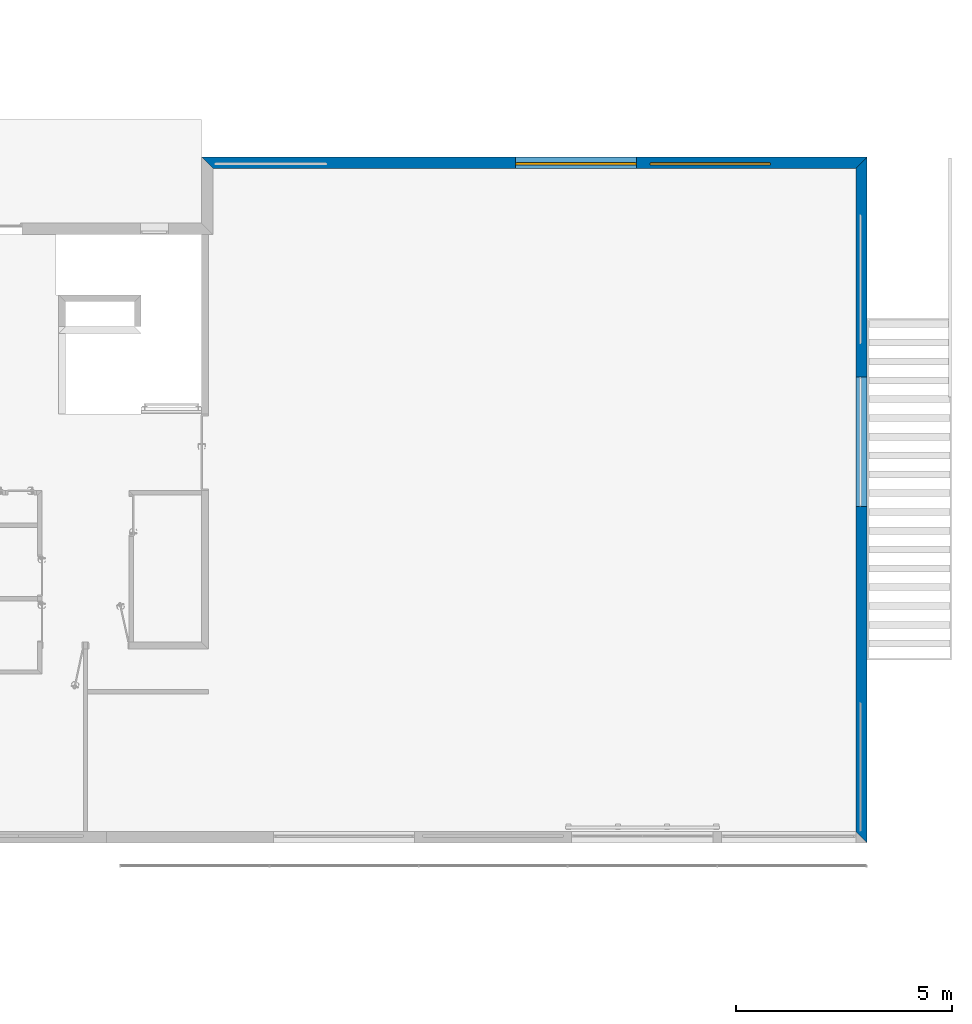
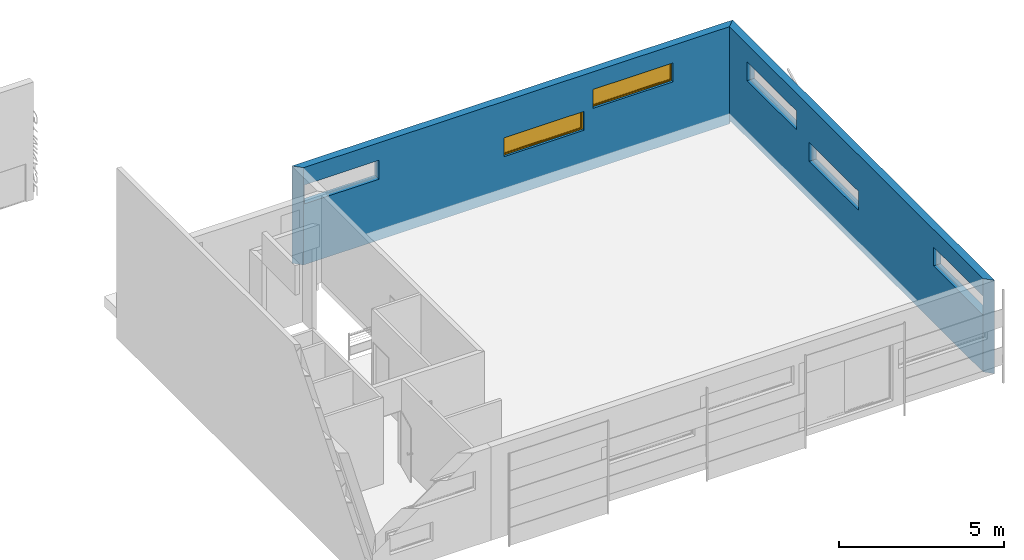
# One storey, part 6 of 14: 2 walls, 2 windows, 6 openings.
"""IFC2X3 building model written with IfcOpenShell, lengths in metres."""

from ifc_helpers import new_model, entity, si_unit, converted_unit, money_unit, direction, frame, origin_with_axes, place, context, subcontext, project, spatial, polyline, outline, extrude, open_shell, faceted_brep, surface_model, source, transform, mapped, material, layer, layer_set, layer_usage, type_object, element, fill, save


model = new_model("IFC2X3")

# Units and contexts
model_context = context("Model", 3, precision=1e-05, world=origin_with_axes(), true_north=direction((0.0, 1.0)))
body_context = subcontext(model_context, "Body", "Model", "MODEL_VIEW")
ifc_project = project(units=[si_unit("LENGTHUNIT", "METRE"), si_unit("AREAUNIT", "SQUARE_METRE"), si_unit("VOLUMEUNIT", "CUBIC_METRE"), converted_unit("PLANEANGLEUNIT", "DEGREE", entity("IfcPlaneAngleMeasure", 0.0174532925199), si_unit("PLANEANGLEUNIT", "RADIAN"), dimensions=[0, 0, 0, 0, 0, 0, 0]), si_unit("SOLIDANGLEUNIT", "STERADIAN"), money_unit("EUR"), converted_unit("TIMEUNIT", "Year", entity("IfcTimeMeasure", 31556926.0), si_unit("TIMEUNIT", "SECOND"), dimensions=[0, 0, 0, 0, 0, 0, 0]), si_unit("MASSUNIT", "GRAM"), si_unit("THERMODYNAMICTEMPERATUREUNIT", "DEGREE_CELSIUS"), si_unit("LUMINOUSINTENSITYUNIT", "LUMEN")], contexts=[model_context])

# Site, building, storey
site_placement = place(None, origin_with_axes())
site = spatial("IfcSite", under=ifc_project, at=site_placement, Name="Site", CompositionType="ELEMENT")
building_placement = place(site_placement, origin_with_axes())
building = spatial("IfcBuilding", under=site, at=building_placement, Name="Bâtiment", CompositionType="ELEMENT")
storey_placement = place(building_placement, frame((0.0, 0.0, 3.0), z_axis=(0.0, 0.0, 1.0), x_axis=(1.0, 0.0, 0.0)))
storey = spatial("IfcBuildingStorey", under=building, at=storey_placement, Name="NIVEAU HAUT ENTRÉE", CompositionType="ELEMENT", Elevation=3.0)

# Wall, openings, windows
ifc_material_1 = material(Name="Hachure solide* 2593434267")
ifc_layer_1 = layer(ifc_material_1, 0.16, ventilated="UNKNOWN")
ifc_material_2 = material(Name="Empty Fill 290923149")
ifc_layer_2 = layer(ifc_material_2, 0.08, ventilated="UNKNOWN")
ifc_material_3 = material(Name="Hachure solide* 3992800808")
ifc_layer_3 = layer(ifc_material_3, 0.02, ventilated="UNKNOWN")
ifc_layer_set_1 = layer_set([ifc_layer_1, ifc_layer_2, ifc_layer_3], Name="•GYMN 16+10 (1)")
ifc_layer_usage_1 = layer_usage(ifc_layer_set_1, "AXIS2", "POSITIVE", 0.0)
wall_type = type_object("IfcWallType", Name="•GYMN 16+10 260", PredefinedType="NOTDEFINED")
wall_1_placement = place(storey_placement, frame((67.258457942, 21.758815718, -0.4), z_axis=(0.0, 0.0, 1.0), x_axis=(-1.0, 0.0, 0.0)))
wall_1 = element("IfcWallStandardCase", 1, at=wall_1_placement, inside=storey, type_object=wall_type, material=ifc_layer_usage_1, Name="Mur-002", context=body_context, shape_type="SweptSolid", body=[
    extrude(outline(polyline([(0.0, 0.0), (15.42, 0.0), (15.16, 0.26), (0.26, 0.26), (0.0, 0.0)])), origin_with_axes(), (0.0, 0.0, 1.0), 3.6),
])
opening_1_placement = place(wall_1_placement, frame((13.82, 0.0, 2.25), z_axis=(0.0, 0.0, 1.0), x_axis=(1.0, 0.0, 0.0)))
element("IfcOpeningElement", 2, at=opening_1_placement, cuts=wall_1, Name="Fen-027", context=body_context, shape_type="SweptSolid", body=[
    extrude(outline(polyline([(1.3, 0.7), (-1.3, 0.7), (-1.3, 0.0), (1.3, 0.0), (1.3, 0.7)])), frame((0.0, 0.18, 0.0), z_axis=(0.0, -1.0, 0.0), x_axis=(1.0, 0.0, 0.0)), (0.0, 0.0, 1.0), 0.44),
    extrude(outline(polyline([(1.3, 0.0), (-1.3, 0.0), (-1.3, -0.7), (1.3, -0.7), (1.3, 0.0)])), frame((0.0, 0.18, 0.0), z_axis=(0.0, 1.0, 0.0), x_axis=(1.0, 0.0, 0.0)), (0.0, 0.0, 1.0), 0.34),
])
opening_2_placement = place(wall_1_placement, frame((6.74191669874, 0.0, 1.55), z_axis=(0.0, 0.0, 1.0), x_axis=(1.0, 0.0, 0.0)))
opening_2 = element("IfcOpeningElement", 3, at=opening_2_placement, cuts=wall_1, Name="Fen-027", context=body_context, shape_type="SweptSolid", body=[
    extrude(outline(polyline([(1.4, 0.7), (-1.4, 0.7), (-1.4, 0.0), (1.4, 0.0), (1.4, 0.7)])), frame((0.0, 0.18, 0.0), z_axis=(0.0, -1.0, 0.0), x_axis=(1.0, 0.0, 0.0)), (0.0, 0.0, 1.0), 0.44),
    extrude(outline(polyline([(1.4, 0.0), (-1.4, 0.0), (-1.4, -0.7), (1.4, -0.7), (1.4, 0.0)])), frame((0.0, 0.18, 0.0), z_axis=(0.0, 1.0, 0.0), x_axis=(1.0, 0.0, 0.0)), (0.0, 0.0, 1.0), 0.34),
])
opening_3_placement = place(wall_1_placement, frame((3.63565172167, 0.0, 2.25), z_axis=(0.0, 0.0, 1.0), x_axis=(1.0, 0.0, 0.0)))
opening_3 = element("IfcOpeningElement", 4, at=opening_3_placement, cuts=wall_1, Name="Fen-027", context=body_context, shape_type="SweptSolid", body=[
    extrude(outline(polyline([(1.4, 0.7), (-1.4, 0.7), (-1.4, 0.0), (1.4, 0.0), (1.4, 0.7)])), frame((0.0, 0.18, 0.0), z_axis=(0.0, -1.0, 0.0), x_axis=(1.0, 0.0, 0.0)), (0.0, 0.0, 1.0), 0.44),
    extrude(outline(polyline([(1.4, 0.0), (-1.4, 0.0), (-1.4, -0.7), (1.4, -0.7), (1.4, 0.0)])), frame((0.0, 0.18, 0.0), z_axis=(0.0, 1.0, 0.0), x_axis=(1.0, 0.0, 0.0)), (0.0, 0.0, 1.0), 0.34),
])
ifc_material_4 = material(Name="Sans Trame")
window_style = type_object("IfcWindowStyle", Name="Fen bascule 1 10", ConstructionType="NOTDEFINED", OperationType="SINGLE_PANEL", ParameterTakesPrecedence=False, Sizeable=False)
shared_shape = source(origin_with_axes(), body_context, "Body", "SurfaceModel", [
    faceted_brep([(1.38, -0.12, 0.66), (1.4, -0.12, 0.66), (1.4, -0.08, 0.66), (1.36, -0.08, 0.66), (1.36, -0.1, 0.66), (1.38, -0.1, 0.66), (1.38, -0.12, 0.04), (1.4, -0.12, 0.04), (1.4, -0.08, 0.04), (1.36, -0.08, 0.04), (1.36, -0.1, 0.04), (1.38, -0.1, 0.04)], [[[0, 1, 2, 3, 4, 5]], [[6, 7, 1, 0]], [[1, 7, 8, 2]], [[2, 8, 9, 3]], [[4, 3, 9, 10]], [[10, 11, 5, 4]], [[5, 11, 6, 0]], [[11, 10, 9, 8, 7, 6]]]),
    faceted_brep([(-1.36, -0.1, 0.66), (-1.36, -0.08, 0.66), (-1.4, -0.08, 0.66), (-1.4, -0.12, 0.66), (-1.38, -0.12, 0.66), (-1.38, -0.1, 0.66), (-1.36, -0.1, 0.04), (-1.36, -0.08, 0.04), (-1.4, -0.08, 0.04), (-1.4, -0.12, 0.04), (-1.38, -0.12, 0.04), (-1.38, -0.1, 0.04)], [[[0, 1, 2, 3, 4, 5]], [[6, 7, 1, 0]], [[8, 2, 1, 7]], [[9, 3, 2, 8]], [[4, 3, 9, 10]], [[10, 11, 5, 4]], [[5, 11, 6, 0]], [[11, 10, 9, 8, 7, 6]]]),
    faceted_brep([(1.38, -0.12, 0.66), (1.4, -0.12, 0.66), (1.4, -0.12, 0.7), (-1.4, -0.12, 0.7), (-1.4, -0.12, 0.66), (-1.38, -0.12, 0.66), (-1.38, -0.12, 0.68), (1.38, -0.12, 0.68), (1.38, -0.1, 0.66), (1.36, -0.1, 0.66), (1.36, -0.08, 0.66), (1.4, -0.08, 0.66), (1.4, -0.08, 0.7), (-1.4, -0.08, 0.7), (-1.4, -0.08, 0.66), (-1.38, -0.1, 0.66), (-1.36, -0.08, 0.66), (-1.36, -0.1, 0.66), (-1.38, -0.1, 0.68), (1.38, -0.1, 0.68)], [[[0, 1, 2, 3, 4, 5, 6, 7]], [[8, 9, 10, 11, 1, 0]], [[2, 1, 11, 12]], [[3, 2, 12, 13]], [[4, 3, 13, 14]], [[15, 5, 4, 14, 16, 17]], [[5, 15, 18, 6]], [[6, 18, 19, 7]], [[7, 19, 8, 0]], [[17, 9, 8, 19, 18, 15]], [[17, 16, 10, 9]], [[14, 13, 12, 11, 10, 16]]]),
    faceted_brep([(-1.36, -0.1, 0.04), (-1.36, -0.08, 0.04), (-1.4, -0.08, 0.04), (-1.4, -0.12, 0.04), (-1.38, -0.12, 0.04), (-1.38, -0.1, 0.04), (1.36, -0.1, 0.04), (1.36, -0.08, 0.04), (1.4, -0.08, 0.04), (1.4, -0.08, 0.0), (-1.4, -0.08, 0.0), (-1.4, -0.12, 0.0), (1.38, -0.12, 0.02), (-1.38, -0.12, 0.02), (1.4, -0.12, 0.0), (1.4, -0.12, 0.04), (1.38, -0.12, 0.04), (-1.38, -0.1, 0.02), (1.38, -0.1, 0.02), (1.38, -0.1, 0.04)], [[[0, 1, 2, 3, 4, 5]], [[6, 7, 1, 0]], [[8, 9, 10, 2, 1, 7]], [[11, 3, 2, 10]], [[12, 13, 4, 3, 11, 14, 15, 16]], [[13, 17, 5, 4]], [[5, 17, 18, 19, 6, 0]], [[19, 16, 15, 8, 7, 6]], [[15, 14, 9, 8]], [[14, 11, 10, 9]], [[12, 18, 17, 13]], [[19, 18, 12, 16]]]),
    faceted_brep([(-1.34, -0.1, 0.06), (-1.34, -0.1, 0.64), (-1.34, -0.14, 0.64), (-1.34, -0.14, 0.06), (-1.38, -0.1, 0.06), (-1.38, -0.1, 0.64), (-1.38, -0.14, 0.64), (-1.38, -0.14, 0.06)], [[[0, 1, 2, 3]], [[0, 4, 5, 1]], [[1, 5, 6, 2]], [[3, 2, 6, 7]], [[4, 0, 3, 7]], [[5, 4, 7, 6]]]),
    faceted_brep([(1.38, -0.1, 0.06), (1.38, -0.1, 0.64), (1.38, -0.14, 0.64), (1.38, -0.14, 0.06), (1.34, -0.1, 0.06), (1.34, -0.1, 0.64), (1.34, -0.14, 0.64), (1.34, -0.14, 0.06)], [[[0, 1, 2, 3]], [[0, 4, 5, 1]], [[1, 5, 6, 2]], [[3, 2, 6, 7]], [[4, 0, 3, 7]], [[5, 4, 7, 6]]]),
    faceted_brep([(1.38, -0.1, 0.02), (1.38, -0.1, 0.06), (1.38, -0.14, 0.06), (1.38, -0.14, 0.02), (-1.38, -0.1, 0.02), (-1.38, -0.1, 0.06), (-1.34, -0.1, 0.06), (1.34, -0.1, 0.06), (1.34, -0.14, 0.06), (-1.34, -0.14, 0.06), (-1.38, -0.14, 0.06), (-1.38, -0.14, 0.02)], [[[0, 1, 2, 3]], [[0, 4, 5, 6, 7, 1]], [[1, 7, 8, 2]], [[3, 2, 8, 9, 10, 11]], [[4, 0, 3, 11]], [[5, 4, 11, 10]], [[6, 5, 10, 9]], [[7, 6, 9, 8]]]),
    faceted_brep([(-1.38, -0.1, 0.68), (-1.38, -0.1, 0.64), (-1.38, -0.14, 0.64), (-1.38, -0.14, 0.68), (1.38, -0.1, 0.68), (1.38, -0.1, 0.64), (1.34, -0.1, 0.64), (-1.34, -0.1, 0.64), (-1.34, -0.14, 0.64), (1.34, -0.14, 0.64), (1.38, -0.14, 0.64), (1.38, -0.14, 0.68)], [[[0, 1, 2, 3]], [[0, 4, 5, 6, 7, 1]], [[1, 7, 8, 2]], [[3, 2, 8, 9, 10, 11]], [[4, 0, 3, 11]], [[5, 4, 11, 10]], [[6, 5, 10, 9]], [[7, 6, 9, 8]]]),
    surface_model("IfcShellBasedSurfaceModel", [(-1.34, -0.11, 0.06), (-1.34, -0.11, 0.64), (1.34, -0.11, 0.64), (1.34, -0.11, 0.06)], [open_shell([[[0, 1, 2, 3]]])]),
    surface_model("IfcShellBasedSurfaceModel", [(-1.34, -0.13, 0.06), (1.34, -0.13, 0.06), (1.34, -0.13, 0.64), (-1.34, -0.13, 0.64)], [open_shell([[[0, 1, 2, 3]]])]),
])
window_1_placement = place(opening_2_placement, frame((-1.4, 0.0, 0.0), z_axis=(0.0, 0.0, 1.0), x_axis=(1.0, 0.0, 0.0)))
window_1 = element("IfcWindow", 5, at=window_1_placement, inside=storey, type_object=window_style, material=ifc_material_4, Name="Fen-027", OverallHeight=0.7, OverallWidth=2.8, context=body_context, shape_type="MappedRepresentation", body=[
    mapped(shared_shape, transform((1.4, 0.26, 0.0))),
])
fill(opening_2, window_1)
window_2_placement = place(opening_3_placement, frame((-1.4, 0.0, 0.0), z_axis=(0.0, 0.0, 1.0), x_axis=(1.0, 0.0, 0.0)))
window_2 = element("IfcWindow", 6, at=window_2_placement, inside=storey, type_object=window_style, material=ifc_material_4, Name="Fen-027", OverallHeight=0.7, OverallWidth=2.8, context=body_context, shape_type="MappedRepresentation", body=[
    mapped(shared_shape, transform((1.4, 0.26, 0.0))),
])
fill(opening_3, window_2)

# Wall, openings
ifc_layer_4 = layer(ifc_material_3, 0.02, ventilated="UNKNOWN")
ifc_layer_5 = layer(ifc_material_2, 0.08, ventilated="UNKNOWN")
ifc_layer_6 = layer(ifc_material_1, 0.16, ventilated="UNKNOWN")
ifc_layer_set_2 = layer_set([ifc_layer_4, ifc_layer_5, ifc_layer_6], Name="•GYMN 16+10")
ifc_layer_usage_2 = layer_usage(ifc_layer_set_2, "AXIS2", "POSITIVE", -0.26)
wall_2_placement = place(storey_placement, frame((67.258457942, 21.758815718, -0.25), z_axis=(0.0, 0.0, 1.0), x_axis=(0.0, -1.0, 0.0)))
wall_2 = element("IfcWallStandardCase", 7, at=wall_2_placement, inside=storey, type_object=wall_type, material=ifc_layer_usage_2, Name="Mur-005", context=body_context, shape_type="SweptSolid", body=[
    extrude(outline(polyline([(0.26, -0.26), (15.63, -0.26), (15.89, 0.0), (0.0, 0.0), (0.26, -0.26)])), origin_with_axes(), (0.0, 0.0, 1.0), 3.45),
])
opening_4_placement = place(wall_2_placement, frame((14.13, 0.0, 2.1), z_axis=(0.0, 0.0, 1.0), x_axis=(1.0, 0.0, 0.0)))
element("IfcOpeningElement", 8, at=opening_4_placement, cuts=wall_2, Name="Fen-027", context=body_context, shape_type="SweptSolid", body=[
    extrude(outline(polyline([(-1.5, 0.7), (-1.5, 0.0), (1.5, 0.0), (1.5, 0.7), (-1.5, 0.7)])), frame((0.0, -0.18, 0.0), z_axis=(0.0, 1.0, 0.0), x_axis=(-1.0, 0.0, 0.0)), (0.0, 0.0, 1.0), 0.44),
    extrude(outline(polyline([(-1.5, 0.0), (-1.5, -0.7), (1.5, -0.7), (1.5, 0.0), (-1.5, 0.0)])), frame((0.0, -0.18, 0.0), z_axis=(0.0, -1.0, 0.0), x_axis=(-1.0, 0.0, 0.0)), (0.0, 0.0, 1.0), 0.34),
])
opening_5_placement = place(wall_2_placement, frame((6.5953377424, 0.0, 1.4), z_axis=(0.0, 0.0, 1.0), x_axis=(1.0, 0.0, 0.0)))
element("IfcOpeningElement", 9, at=opening_5_placement, cuts=wall_2, Name="Fen-027", context=body_context, shape_type="SweptSolid", body=[
    extrude(outline(polyline([(-1.5, 0.7), (-1.5, 0.0), (1.5, 0.0), (1.5, 0.7), (-1.5, 0.7)])), frame((0.0, -0.18, 0.0), z_axis=(0.0, 1.0, 0.0), x_axis=(-1.0, 0.0, 0.0)), (0.0, 0.0, 1.0), 0.44),
    extrude(outline(polyline([(-1.5, 0.0), (-1.5, -0.7), (1.5, -0.7), (1.5, 0.0), (-1.5, 0.0)])), frame((0.0, -0.18, 0.0), z_axis=(0.0, -1.0, 0.0), x_axis=(-1.0, 0.0, 0.0)), (0.0, 0.0, 1.0), 0.34),
])
opening_6_placement = place(wall_2_placement, frame((2.8314866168, 0.0, 2.1), z_axis=(0.0, 0.0, 1.0), x_axis=(1.0, 0.0, 0.0)))
element("IfcOpeningElement", 10, at=opening_6_placement, cuts=wall_2, Name="Fen-027", context=body_context, shape_type="SweptSolid", body=[
    extrude(outline(polyline([(-1.5, 0.7), (-1.5, 0.0), (1.5, 0.0), (1.5, 0.7), (-1.5, 0.7)])), frame((0.0, -0.18, 0.0), z_axis=(0.0, 1.0, 0.0), x_axis=(-1.0, 0.0, 0.0)), (0.0, 0.0, 1.0), 0.44),
    extrude(outline(polyline([(-1.5, 0.0), (-1.5, -0.7), (1.5, -0.7), (1.5, 0.0), (-1.5, 0.0)])), frame((0.0, -0.18, 0.0), z_axis=(0.0, -1.0, 0.0), x_axis=(-1.0, 0.0, 0.0)), (0.0, 0.0, 1.0), 0.34),
])

save(model, "model.ifc")
